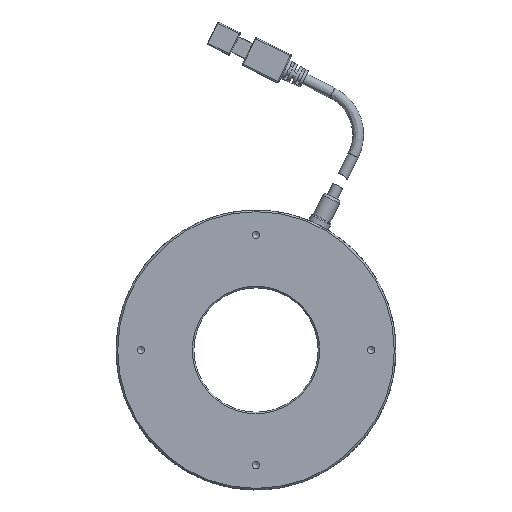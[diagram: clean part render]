
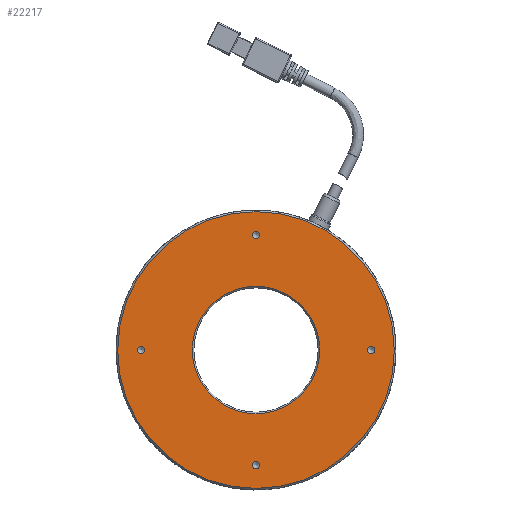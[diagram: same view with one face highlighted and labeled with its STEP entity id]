
A CAD part, top view. The second image highlights one B-rep face of the part: STEP entity #22217.
In plain terms, the highlighted planar face has unit normal (0, 0, 1).
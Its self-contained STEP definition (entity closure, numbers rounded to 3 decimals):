
#180 = CARTESIAN_POINT ( 'NONE',  ( 37., 6.469, 5.318 ) ) ;
#191 = VERTEX_POINT ( 'NONE', #17367 ) ;
#217 = EDGE_CURVE ( 'NONE', #2013, #2013, #6213, .T. ) ;
#353 = DIRECTION ( 'NONE',  ( 0., 0., -1. ) ) ;
#1268 = CARTESIAN_POINT ( 'NONE',  ( -1.25, 43.469, 5.318 ) ) ;
#1396 = VERTEX_POINT ( 'NONE', #1599 ) ;
#1599 = CARTESIAN_POINT ( 'NONE',  ( 20.5, 6.469, 5.318 ) ) ;
#1614 = EDGE_CURVE ( 'NONE', #24138, #24138, #18002, .T. ) ;
#1818 = EDGE_LOOP ( 'NONE', ( #20560 ) ) ;
#2013 = VERTEX_POINT ( 'NONE', #21048 ) ;
#3152 = CARTESIAN_POINT ( 'NONE',  ( 0., 43.469, 5.318 ) ) ;
#3238 = CARTESIAN_POINT ( 'NONE',  ( 0., 6.469, 5.318 ) ) ;
#3497 = EDGE_LOOP ( 'NONE', ( #11765 ) ) ;
#4058 = DIRECTION ( 'NONE',  ( -1., 0., 0. ) ) ;
#4281 = FACE_BOUND ( 'NONE', #1818, .T. ) ;
#5165 = DIRECTION ( 'NONE',  ( 0., 0., -1. ) ) ;
#5468 = FACE_BOUND ( 'NONE', #5738, .T. ) ;
#5738 = EDGE_LOOP ( 'NONE', ( #8146 ) ) ;
#5827 = CIRCLE ( 'NONE', #16332, 1.25 ) ;
#6213 = CIRCLE ( 'NONE', #8319, 1.25 ) ;
#6927 = DIRECTION ( 'NONE',  ( 0., 0., -1. ) ) ;
#7116 = DIRECTION ( 'NONE',  ( -1., 0., 0. ) ) ;
#7186 = DIRECTION ( 'NONE',  ( 0., 0., -1. ) ) ;
#8146 = ORIENTED_EDGE ( 'NONE', *, *, #8939, .F. ) ;
#8319 = AXIS2_PLACEMENT_3D ( 'NONE', #180, #353, #15608 ) ;
#8547 = ORIENTED_EDGE ( 'NONE', *, *, #16428, .T. ) ;
#8939 = EDGE_CURVE ( 'NONE', #1396, #1396, #13622, .T. ) ;
#9140 = DIRECTION ( 'NONE',  ( 1., 0., 0. ) ) ;
#9305 = CARTESIAN_POINT ( 'NONE',  ( -1.25, -30.531, 5.318 ) ) ;
#9390 = CIRCLE ( 'NONE', #20234, 1.25 ) ;
#9894 = VERTEX_POINT ( 'NONE', #1268 ) ;
#9991 = DIRECTION ( 'NONE',  ( 0., 0., -1. ) ) ;
#10345 = FACE_BOUND ( 'NONE', #3497, .T. ) ;
#11276 = CARTESIAN_POINT ( 'NONE',  ( -44.5, 6.469, 5.318 ) ) ;
#11735 = CARTESIAN_POINT ( 'NONE',  ( 20., 6.469, 5.318 ) ) ;
#11765 = ORIENTED_EDGE ( 'NONE', *, *, #15264, .T. ) ;
#12969 = DIRECTION ( 'NONE',  ( -1., 0., 0. ) ) ;
#13379 = FACE_BOUND ( 'NONE', #17924, .T. ) ;
#13566 = ORIENTED_EDGE ( 'NONE', *, *, #1614, .F. ) ;
#13622 = CIRCLE ( 'NONE', #14296, 20.5 ) ;
#14296 = AXIS2_PLACEMENT_3D ( 'NONE', #24479, #14666, #9140 ) ;
#14666 = DIRECTION ( 'NONE',  ( 0., 0., 1. ) ) ;
#15192 = FACE_BOUND ( 'NONE', #23594, .T. ) ;
#15264 = EDGE_CURVE ( 'NONE', #191, #191, #5827, .T. ) ;
#15284 = AXIS2_PLACEMENT_3D ( 'NONE', #3152, #6927, #12969 ) ;
#15486 = FACE_OUTER_BOUND ( 'NONE', #19639, .T. ) ;
#15608 = DIRECTION ( 'NONE',  ( -1., 0., 0. ) ) ;
#15671 = CARTESIAN_POINT ( 'NONE',  ( -37., 6.469, 5.318 ) ) ;
#16332 = AXIS2_PLACEMENT_3D ( 'NONE', #15671, #9991, #4058 ) ;
#16428 = EDGE_CURVE ( 'NONE', #9894, #9894, #22200, .T. ) ;
#17022 = DIRECTION ( 'NONE',  ( -1., 0., 0. ) ) ;
#17367 = CARTESIAN_POINT ( 'NONE',  ( -38.25, 6.469, 5.318 ) ) ;
#17587 = ORIENTED_EDGE ( 'NONE', *, *, #18410, .T. ) ;
#17924 = EDGE_LOOP ( 'NONE', ( #8547 ) ) ;
#18002 = CIRCLE ( 'NONE', #23018, 44.5 ) ;
#18393 = VERTEX_POINT ( 'NONE', #9305 ) ;
#18410 = EDGE_CURVE ( 'NONE', #18393, #18393, #9390, .T. ) ;
#19076 = AXIS2_PLACEMENT_3D ( 'NONE', #11735, #21179, #21354 ) ;
#19639 = EDGE_LOOP ( 'NONE', ( #13566 ) ) ;
#20234 = AXIS2_PLACEMENT_3D ( 'NONE', #20960, #7186, #17022 ) ;
#20560 = ORIENTED_EDGE ( 'NONE', *, *, #217, .T. ) ;
#20960 = CARTESIAN_POINT ( 'NONE',  ( 0., -30.531, 5.318 ) ) ;
#21048 = CARTESIAN_POINT ( 'NONE',  ( 35.75, 6.469, 5.318 ) ) ;
#21179 = DIRECTION ( 'NONE',  ( 0., 0., -1. ) ) ;
#21354 = DIRECTION ( 'NONE',  ( -1., 0., 0. ) ) ;
#21439 = PLANE ( 'NONE',  #19076 ) ;
#22200 = CIRCLE ( 'NONE', #15284, 1.25 ) ;
#22217 = ADVANCED_FACE ( 'NONE', ( #5468, #15486, #4281, #15192, #10345, #13379 ), #21439, .F. ) ;
#23018 = AXIS2_PLACEMENT_3D ( 'NONE', #3238, #5165, #7116 ) ;
#23594 = EDGE_LOOP ( 'NONE', ( #17587 ) ) ;
#24138 = VERTEX_POINT ( 'NONE', #11276 ) ;
#24479 = CARTESIAN_POINT ( 'NONE',  ( 0., 6.469, 5.318 ) ) ;
